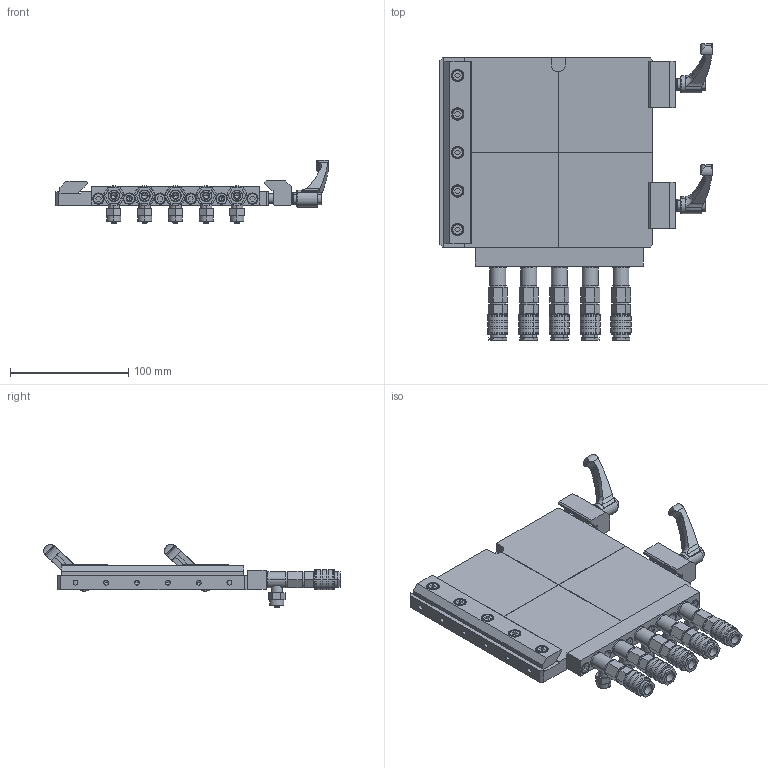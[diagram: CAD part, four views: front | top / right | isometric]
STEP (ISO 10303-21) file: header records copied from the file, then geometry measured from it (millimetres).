
FILE_DESCRIPTION (( 'STEP AP214' ), '1' );
FILE_NAME ('QCS-R160.STEP', '2023-03-15T02:55:00', ( 'Windows User' ), ( 'P R C' ), 'SwSTEP 2.0', 'SolidWorks 2019', '' );
FILE_SCHEMA (( 'AUTOMOTIVE_DESIGN' ));
Length unit declared in the file: millimetre
Products named in the file (1): QCS-R160
Bounding box: 230 x 250.25 x 53.23 mm (x, y, z)
Volume: 488454.9 mm3; surface area: 165355.9 mm2
Topology: 52 solids, 52 shells, 3291 faces, 8733 edges, 5604 vertices
Faces by surface type: plane 2296, cylinder 591, cone 302, torus 78, sphere 16, bspline 8
Entity records: 145958 total; most frequent: CARTESIAN_POINT 25181, DIRECTION 18252, ORIENTED_EDGE 17302, EDGE_CURVE 8651, AXIS2_PLACEMENT_3D 6515, VERTEX_POINT 5596, VECTOR 5222, LINE 5222
